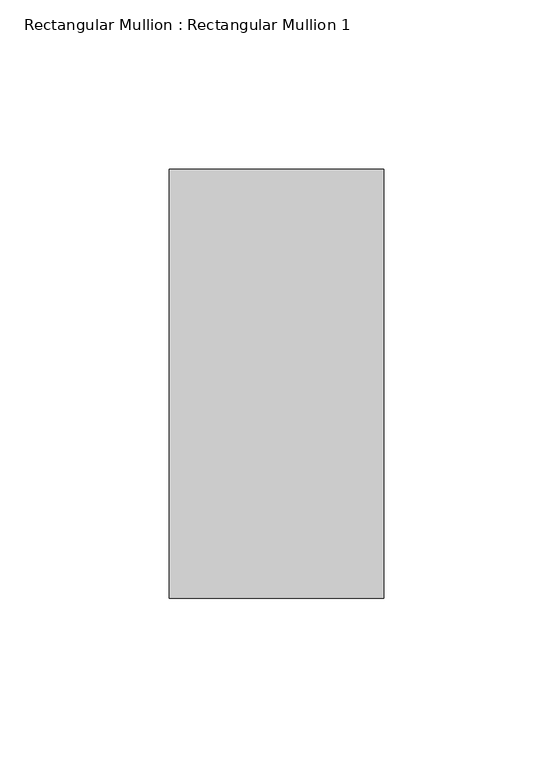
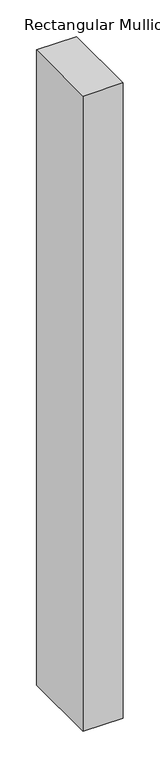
"""IFC4 building model written with IfcOpenShell, lengths in millimetres: member geometry, Rectangular Mullion : Rectangular Mullion 1."""

from ifc_helpers import new_model, si_unit, frame, origin, place, context, project, spatial, polyline, outline, extrude, source, transform, mapped, element, save


def rectangular_mullion_rectangular_mullion_1_630c41c5(model_context):
    return source(origin(), model_context, "Body", "SweptSolid", [
        extrude(outline(polyline([(31.75, 63.5), (31.75, -63.5), (-31.75, -63.5), (-31.75, 63.5), (31.75, 63.5)])), frame((0.0, 0.0, -1057.91), z_axis=(0.0, 0.0, 1.0), x_axis=(1.0, 0.0, 0.0)), (0.0, 0.0, 1.0), 1057.91),
    ])


if __name__ == "__main__":
    model = new_model("IFC4")
    model_context = context("Model", 3, world=origin())
    ifc_project = project(units=[si_unit("LENGTHUNIT", "METRE", prefix="MILLI")], contexts=[model_context])
    site = spatial("IfcSite", under=ifc_project)
    building = spatial("IfcBuilding", under=site)
    placement = place(None, origin())
    rectangular_mullion_rectangular_mullion_1_shape = rectangular_mullion_rectangular_mullion_1_630c41c5(model_context)
    element("IfcMember", 1, ObjectType="Rectangular Mullion : Rectangular Mullion 1", at=placement, inside=building, context=model_context, shape_type="MappedRepresentation", body=[
        mapped(rectangular_mullion_rectangular_mullion_1_shape, transform((0.0, 0.0, 0.0), x_axis=(1.0, 0.0, 0.0), y_axis=(0.0, 1.0, 0.0), z_axis=(0.0, 0.0, 1.0))),
    ])
    save(model, "model.ifc")
